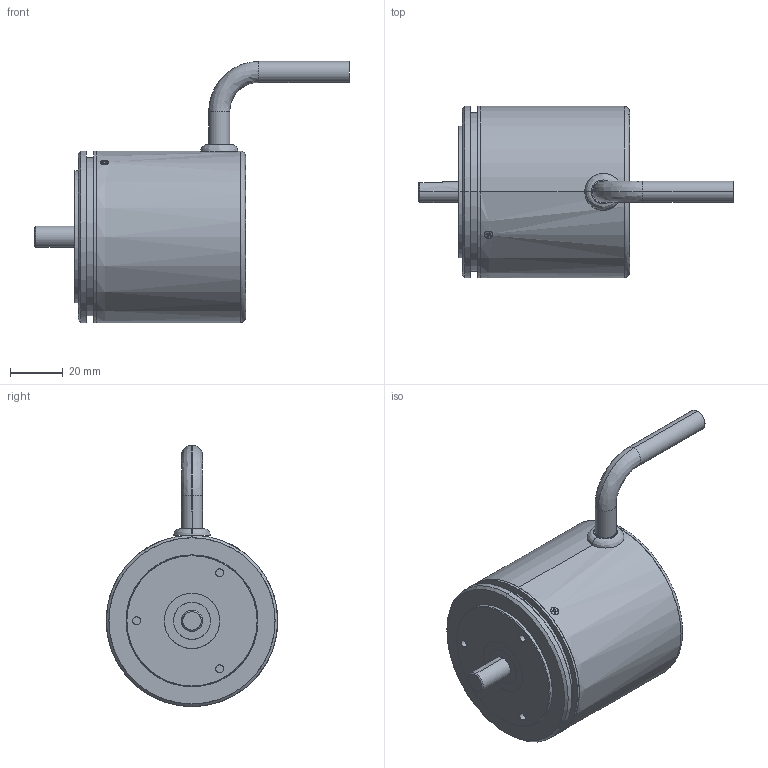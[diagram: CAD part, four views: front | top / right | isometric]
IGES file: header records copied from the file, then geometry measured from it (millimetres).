
Start section: SolidWorks IGES file using analytic representation for surfaces
Bounding box: 119.34 x 65 x 99 mm (x, y, z)
Surface area: 31412.5 mm2 (no closed solid volume)
Topology: 0 solids, 0 shells, 86 faces, 1748 edges, 1748 vertices
Faces by surface type: revolution 49, bspline 37
